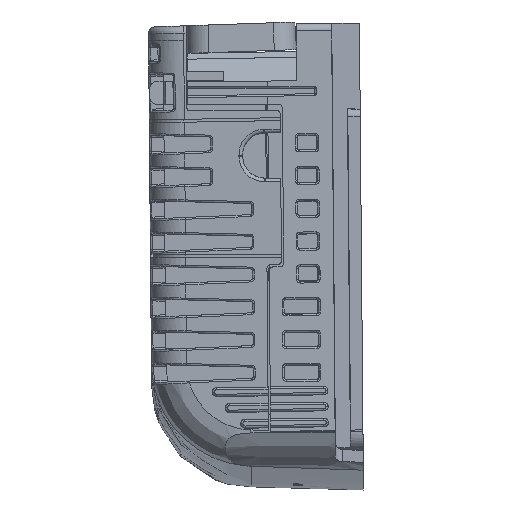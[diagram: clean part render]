
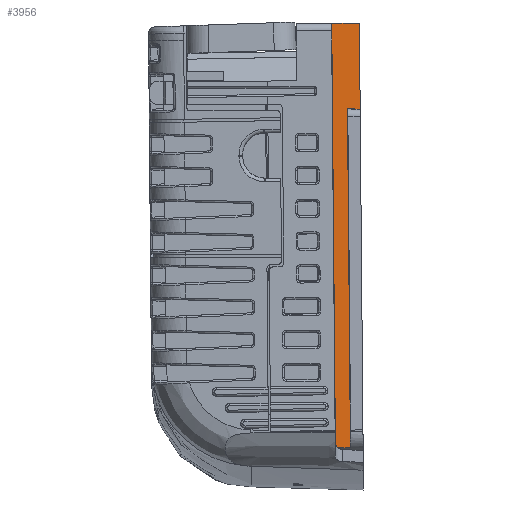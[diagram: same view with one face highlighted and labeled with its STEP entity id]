
A CAD part, front view. The second image highlights one B-rep face of the part: STEP entity #3956.
In plain terms, the highlighted planar face has unit normal (0.009, -1, 0).
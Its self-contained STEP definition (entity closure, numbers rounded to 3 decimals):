
#763 = CARTESIAN_POINT ( 'NONE',  ( -8.329, 956.6, -54.506 ) ) ;
#764 = CARTESIAN_POINT ( 'NONE',  ( -9.016, 956.594, -54.515 ) ) ;
#2152 = VECTOR ( 'NONE', #28899, 1000. ) ;
#2155 = VECTOR ( 'NONE', #28897, 1000. ) ;
#2324 = VECTOR ( 'NONE', #30812, 1000. ) ;
#3956 = ADVANCED_FACE ( 'NONE', ( #10276 ), #10264, .T. ) ;
#10264 = PLANE ( 'NONE',  #51694 ) ;
#10268 = CARTESIAN_POINT ( 'NONE',  ( -3.213, 956.643, -59.123 ) ) ;
#10276 = FACE_OUTER_BOUND ( 'NONE', #67987, .T. ) ;
#10281 = DIRECTION ( 'NONE',  ( 0.009, -1., 0. ) ) ;
#10283 = DIRECTION ( 'NONE',  ( -1., -0.009, -0.009 ) ) ;
#12524 = ORIENTED_EDGE ( 'NONE', *, *, #62090, .F. ) ;
#12526 = ORIENTED_EDGE ( 'NONE', *, *, #62331, .F. ) ;
#12528 = ORIENTED_EDGE ( 'NONE', *, *, #61068, .T. ) ;
#12530 = ORIENTED_EDGE ( 'NONE', *, *, #61239, .T. ) ;
#12531 = ORIENTED_EDGE ( 'NONE', *, *, #62667, .F. ) ;
#12532 = ORIENTED_EDGE ( 'NONE', *, *, #62096, .T. ) ;
#12534 = ORIENTED_EDGE ( 'NONE', *, *, #61067, .T. ) ;
#14720 = VERTEX_POINT ( 'NONE', #43959 ) ;
#27211 = CARTESIAN_POINT ( 'NONE',  ( -7.642, 956.606, -54.497 ) ) ;
#27212 = CARTESIAN_POINT ( 'NONE',  ( -6.956, 956.612, -54.488 ) ) ;
#28875 = LINE ( 'NONE', #28898, #2152 ) ;
#28894 = LINE ( 'NONE', #28896, #2155 ) ;
#28896 = CARTESIAN_POINT ( 'NONE',  ( -9.493, 956.603, 0.254 ) ) ;
#28897 = DIRECTION ( 'NONE',  ( 0.009, 0., -1. ) ) ;
#28898 = CARTESIAN_POINT ( 'NONE',  ( -7.65, 956.617, -7.93 ) ) ;
#28899 = DIRECTION ( 'NONE',  ( 1., 0.009, -0.017 ) ) ;
#30807 = LINE ( 'NONE', #30810, #2324 ) ;
#30810 = CARTESIAN_POINT ( 'NONE',  ( -6.915, 956.611, -59.155 ) ) ;
#30812 = DIRECTION ( 'NONE',  ( -0.009, 0., 1. ) ) ;
#33320 = VECTOR ( 'NONE', #52620, 1000. ) ;
#33326 = VECTOR ( 'NONE', #52637, 1000. ) ;
#33485 = VECTOR ( 'NONE', #54195, 1000. ) ;
#43959 = CARTESIAN_POINT ( 'NONE',  ( -7.362, 956.62, -7.935 ) ) ;
#48375 = CARTESIAN_POINT ( 'NONE',  ( -5.617, 956.635, -7.965 ) ) ;
#48383 = CARTESIAN_POINT ( 'NONE',  ( -5.719, 956.637, 3.8 ) ) ;
#48671 = CARTESIAN_POINT ( 'NONE',  ( -6.956, 956.612, -54.488 ) ) ;
#48677 = CARTESIAN_POINT ( 'NONE',  ( -9.016, 956.594, -54.515 ) ) ;
#48978 = CARTESIAN_POINT ( 'NONE',  ( -9.493, 956.603, 0.254 ) ) ;
#48987 = CARTESIAN_POINT ( 'NONE',  ( -9.524, 956.604, 3.8 ) ) ;
#49882 = VERTEX_POINT ( 'NONE', #48375 ) ;
#49886 = VERTEX_POINT ( 'NONE', #48383 ) ;
#50030 = VERTEX_POINT ( 'NONE', #48671 ) ;
#50033 = VERTEX_POINT ( 'NONE', #48677 ) ;
#50203 = VERTEX_POINT ( 'NONE', #48978 ) ;
#50208 = VERTEX_POINT ( 'NONE', #48987 ) ;
#51694 = AXIS2_PLACEMENT_3D ( 'NONE', #10268, #10281, #10283 ) ;
#52618 = LINE ( 'NONE', #52619, #33320 ) ;
#52619 = CARTESIAN_POINT ( 'NONE',  ( -5.774, 956.637, 3.8 ) ) ;
#52620 = DIRECTION ( 'NONE',  ( 1., 0.009, 0. ) ) ;
#52635 = LINE ( 'NONE', #52636, #33326 ) ;
#52636 = CARTESIAN_POINT ( 'NONE',  ( -8.975, 956.593, -59.173 ) ) ;
#52637 = DIRECTION ( 'NONE',  ( 0.009, 0., -1. ) ) ;
#54188 = LINE ( 'NONE', #54192, #33485 ) ;
#54192 = CARTESIAN_POINT ( 'NONE',  ( -9.256, 956.711, 409.039 ) ) ;
#54195 = DIRECTION ( 'NONE',  ( 0.009, 0., -1. ) ) ;
#61067 = EDGE_CURVE ( 'NONE', #50208, #50203, #28894, .T. ) ;
#61068 = EDGE_CURVE ( 'NONE', #14720, #49882, #28875, .T. ) ;
#61239 = EDGE_CURVE ( 'NONE', #50030, #14720, #30807, .T. ) ;
#62090 = EDGE_CURVE ( 'NONE', #50208, #49886, #52618, .T. ) ;
#62096 = EDGE_CURVE ( 'NONE', #50203, #50033, #52635, .T. ) ;
#62331 = EDGE_CURVE ( 'NONE', #49886, #49882, #54188, .T. ) ;
#62667 = EDGE_CURVE ( 'NONE', #50030, #50033, #63557, .T. ) ;
#63557 = B_SPLINE_CURVE_WITH_KNOTS ( 'NONE', 3,
 ( #27212, #27211, #763, #764 ),
 .UNSPECIFIED., .F., .F.,
 ( 4, 4 ),
 ( 0.002, 0.004 ),
 .UNSPECIFIED. ) ;
#67987 = EDGE_LOOP ( 'NONE', ( #12534, #12532, #12531, #12530, #12528, #12526, #12524 ) ) ;
